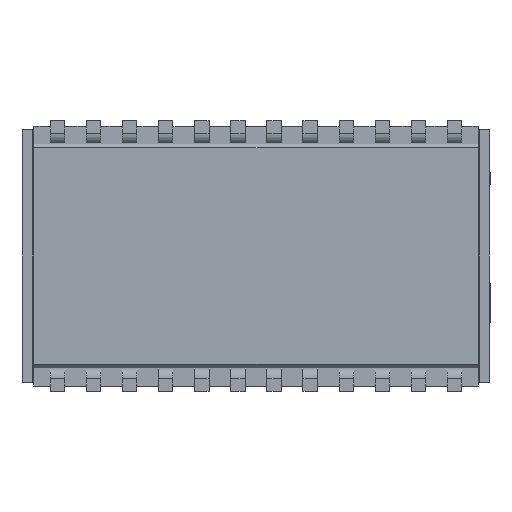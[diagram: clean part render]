
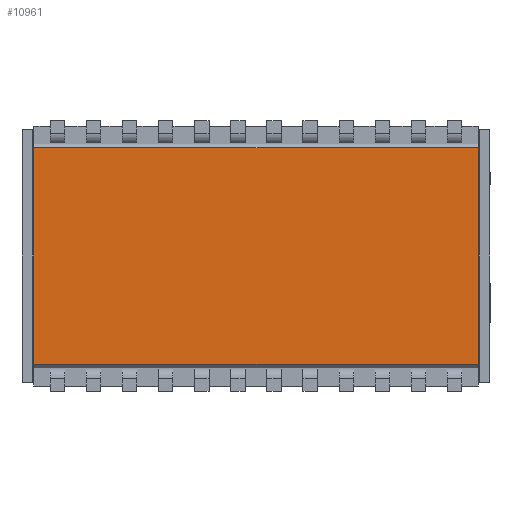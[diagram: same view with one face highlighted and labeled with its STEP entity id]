
A CAD part, front view. The second image highlights one B-rep face of the part: STEP entity #10961.
In plain terms, the highlighted planar face has unit normal (0, -1, 0).
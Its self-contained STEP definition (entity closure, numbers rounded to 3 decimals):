
#908 = EDGE_LOOP ( 'NONE', ( #20511, #1468, #22646, #5541 ) ) ;
#1468 = ORIENTED_EDGE ( 'NONE', *, *, #9593, .T. ) ;
#2033 = CARTESIAN_POINT ( 'NONE',  ( 5.705, -0.045, 0.529 ) ) ;
#2186 = CARTESIAN_POINT ( 'NONE',  ( -9.916, -0.045, 4.339 ) ) ;
#2407 = LINE ( 'NONE', #2705, #15677 ) ;
#2527 = FACE_OUTER_BOUND ( 'NONE', #908, .T. ) ;
#2705 = CARTESIAN_POINT ( 'NONE',  ( -9.916, -0.045, 5.101 ) ) ;
#2707 = LINE ( 'NONE', #2033, #7484 ) ;
#2973 = CARTESIAN_POINT ( 'NONE',  ( -9.916, -0.045, -3.281 ) ) ;
#3705 = VERTEX_POINT ( 'NONE', #4070 ) ;
#4070 = CARTESIAN_POINT ( 'NONE',  ( 5.705, -0.045, 4.339 ) ) ;
#5541 = ORIENTED_EDGE ( 'NONE', *, *, #21005, .T. ) ;
#5877 = VECTOR ( 'NONE', #18828, 1000. ) ;
#7413 = DIRECTION ( 'NONE',  ( 0., -1., 0. ) ) ;
#7484 = VECTOR ( 'NONE', #12826, 1000. ) ;
#7792 = VERTEX_POINT ( 'NONE', #2186 ) ;
#8427 = VECTOR ( 'NONE', #11525, 1000. ) ;
#9199 = CARTESIAN_POINT ( 'NONE',  ( 5.705, -0.045, -3.281 ) ) ;
#9593 = EDGE_CURVE ( 'NONE', #7792, #17176, #2407, .T. ) ;
#10961 = ADVANCED_FACE ( 'NONE', ( #2527 ), #12719, .T. ) ;
#11141 = EDGE_CURVE ( 'NONE', #17176, #19849, #18035, .T. ) ;
#11413 = EDGE_CURVE ( 'NONE', #3705, #7792, #20246, .T. ) ;
#11525 = DIRECTION ( 'NONE',  ( 1., 0., 0. ) ) ;
#12719 = PLANE ( 'NONE',  #23124 ) ;
#12826 = DIRECTION ( 'NONE',  ( 0., 0., 1. ) ) ;
#15331 = DIRECTION ( 'NONE',  ( 0., 0., -1. ) ) ;
#15677 = VECTOR ( 'NONE', #15331, 1000. ) ;
#17176 = VERTEX_POINT ( 'NONE', #2973 ) ;
#18035 = LINE ( 'NONE', #20441, #8427 ) ;
#18211 = CARTESIAN_POINT ( 'NONE',  ( -2.105, -0.045, 0.529 ) ) ;
#18828 = DIRECTION ( 'NONE',  ( -1., 0., 0. ) ) ;
#19849 = VERTEX_POINT ( 'NONE', #9199 ) ;
#19989 = DIRECTION ( 'NONE',  ( 0., 0., -1. ) ) ;
#20246 = LINE ( 'NONE', #22509, #5877 ) ;
#20441 = CARTESIAN_POINT ( 'NONE',  ( -2.105, -0.045, -3.281 ) ) ;
#20511 = ORIENTED_EDGE ( 'NONE', *, *, #11413, .T. ) ;
#21005 = EDGE_CURVE ( 'NONE', #19849, #3705, #2707, .T. ) ;
#22509 = CARTESIAN_POINT ( 'NONE',  ( -2.105, -0.045, 4.339 ) ) ;
#22646 = ORIENTED_EDGE ( 'NONE', *, *, #11141, .T. ) ;
#23124 = AXIS2_PLACEMENT_3D ( 'NONE', #18211, #7413, #19989 ) ;
